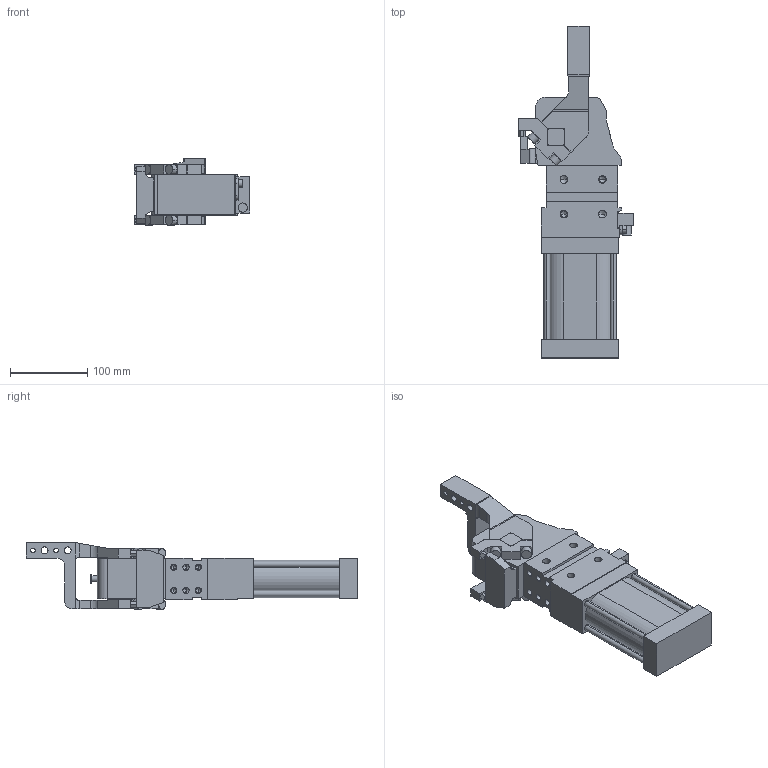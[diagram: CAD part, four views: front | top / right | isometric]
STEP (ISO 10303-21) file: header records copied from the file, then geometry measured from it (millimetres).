
FILE_DESCRIPTION (( 'STEP AP214' ), '1' );
FILE_NAME ('cpl63th1ssi1g_75.STEP', '2023-01-26T10:36:23', ( '' ), ( '' ), 'SwSTEP 2.0', 'SolidWorks 2022', '' );
FILE_SCHEMA (( 'AUTOMOTIVE_DESIGN' ));
Length unit declared in the file: millimetre
Products named in the file (4): leva_h1ss_cpl63t; cpl63th1ssi1g_75; blocchetto_VEP_0; meccanica_cpl_63_tassello_esterno
Assembly tree (3 placements, depth 2):
  cpl63th1ssi1g_75
    meccanica_cpl_63_tassello_esterno
    blocchetto_VEP_0
    leva_h1ss_cpl63t
Bounding box: 149.5 x 430.5 x 86.5 mm (x, y, z)
Volume: 1830813.6 mm3; surface area: 199015.3 mm2
Topology: 3 solids, 3 shells, 433 faces, 1142 edges, 709 vertices
Faces by surface type: plane 229, cylinder 154, cone 50
Entity records: 14636 total; most frequent: CARTESIAN_POINT 2346, DIRECTION 2300, ORIENTED_EDGE 2192, EDGE_CURVE 1096, AXIS2_PLACEMENT_3D 777, VECTOR 746, LINE 746, VERTEX_POINT 709
